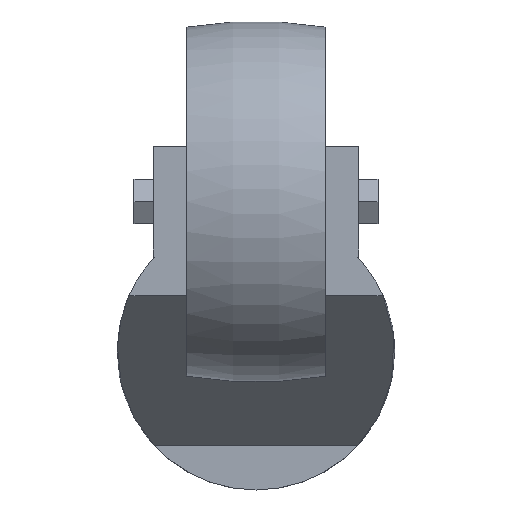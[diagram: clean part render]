
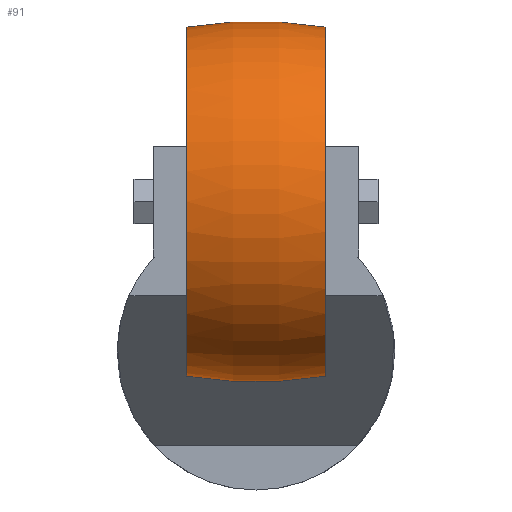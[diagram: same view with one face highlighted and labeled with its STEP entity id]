
A CAD part, front view. The second image highlights one B-rep face of the part: STEP entity #91.
In plain terms, the highlighted toroidal (fillet/blend) face has major radius 42.5 mm and minor radius 75 mm.
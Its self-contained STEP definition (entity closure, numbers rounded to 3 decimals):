
#16 = DIRECTION ( 'NONE',  ( 0., 0., 1. ) ) ;
#26 = ORIENTED_EDGE ( 'NONE', *, *, #351, .F. ) ;
#45 = ORIENTED_EDGE ( 'NONE', *, *, #582, .T. ) ;
#67 = CARTESIAN_POINT ( 'NONE',  ( 0., -58.5, 27. ) ) ;
#80 = CARTESIAN_POINT ( 'NONE',  ( 12.5, -58.5, 27. ) ) ;
#83 = FACE_OUTER_BOUND ( 'NONE', #175, .T. ) ;
#91 = ADVANCED_FACE ( 'NONE', ( #83 ), #328, .T. ) ;
#112 = DIRECTION ( 'NONE',  ( 0., 1., 0. ) ) ;
#175 = EDGE_LOOP ( 'NONE', ( #26, #45, #225, #605 ) ) ;
#225 = ORIENTED_EDGE ( 'NONE', *, *, #385, .T. ) ;
#232 = CIRCLE ( 'NONE', #564, 31.451 ) ;
#291 = CARTESIAN_POINT ( 'NONE',  ( -12.5, -58.5, 27. ) ) ;
#301 = DIRECTION ( 'NONE',  ( 0., 0., 1. ) ) ;
#328 = TOROIDAL_SURFACE ( 'NONE', #1138, -42.5, 75. ) ;
#351 = EDGE_CURVE ( 'NONE', #1129, #1004, #687, .T. ) ;
#385 = EDGE_CURVE ( 'NONE', #415, #1105, #1165, .T. ) ;
#415 = VERTEX_POINT ( 'NONE', #876 ) ;
#546 = AXIS2_PLACEMENT_3D ( 'NONE', #871, #112, #301 ) ;
#564 = AXIS2_PLACEMENT_3D ( 'NONE', #80, #663, #840 ) ;
#579 = CARTESIAN_POINT ( 'NONE',  ( 0., -58.5, -15.5 ) ) ;
#582 = EDGE_CURVE ( 'NONE', #1129, #415, #232, .T. ) ;
#605 = ORIENTED_EDGE ( 'NONE', *, *, #661, .F. ) ;
#661 = EDGE_CURVE ( 'NONE', #1004, #1105, #1064, .T. ) ;
#663 = DIRECTION ( 'NONE',  ( -1., 0., 0. ) ) ;
#687 = CIRCLE ( 'NONE', #546, 75. ) ;
#690 = CARTESIAN_POINT ( 'NONE',  ( -12.5, -58.5, 58.451 ) ) ;
#719 = DIRECTION ( 'NONE',  ( 0., 0., 1. ) ) ;
#746 = AXIS2_PLACEMENT_3D ( 'NONE', #579, #783, #962 ) ;
#783 = DIRECTION ( 'NONE',  ( 0., -1., 0. ) ) ;
#840 = DIRECTION ( 'NONE',  ( 0., 0., 1. ) ) ;
#871 = CARTESIAN_POINT ( 'NONE',  ( 0., -58.5, 69.5 ) ) ;
#876 = CARTESIAN_POINT ( 'NONE',  ( 12.5, -58.5, 58.451 ) ) ;
#890 = CARTESIAN_POINT ( 'NONE',  ( -12.5, -58.5, -4.451 ) ) ;
#962 = DIRECTION ( 'NONE',  ( 0., 0., -1. ) ) ;
#963 = CARTESIAN_POINT ( 'NONE',  ( 12.5, -58.5, -4.451 ) ) ;
#1004 = VERTEX_POINT ( 'NONE', #890 ) ;
#1013 = AXIS2_PLACEMENT_3D ( 'NONE', #291, #1153, #16 ) ;
#1064 = CIRCLE ( 'NONE', #1013, 31.451 ) ;
#1105 = VERTEX_POINT ( 'NONE', #690 ) ;
#1129 = VERTEX_POINT ( 'NONE', #963 ) ;
#1138 = AXIS2_PLACEMENT_3D ( 'NONE', #67, #1190, #719 ) ;
#1153 = DIRECTION ( 'NONE',  ( -1., 0., 0. ) ) ;
#1165 = CIRCLE ( 'NONE', #746, 75. ) ;
#1190 = DIRECTION ( 'NONE',  ( -1., 0., 0. ) ) ;
